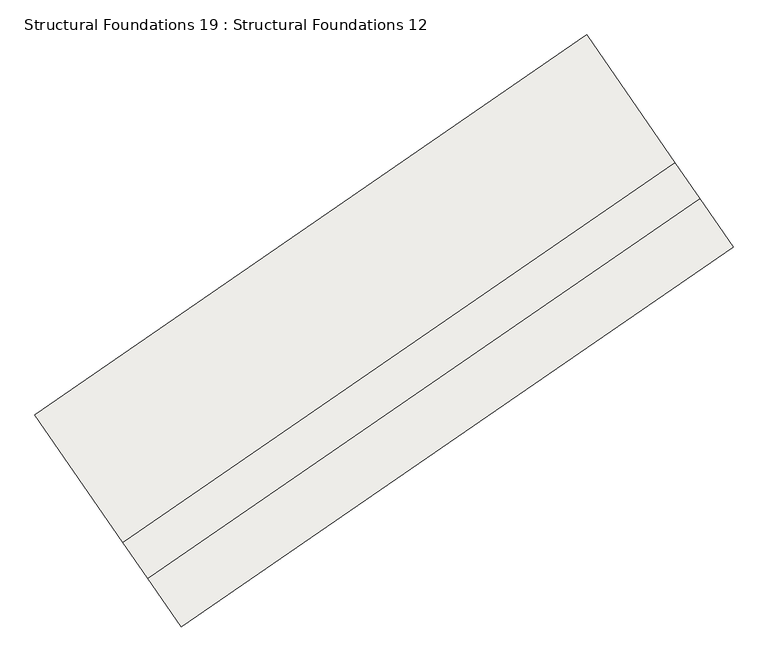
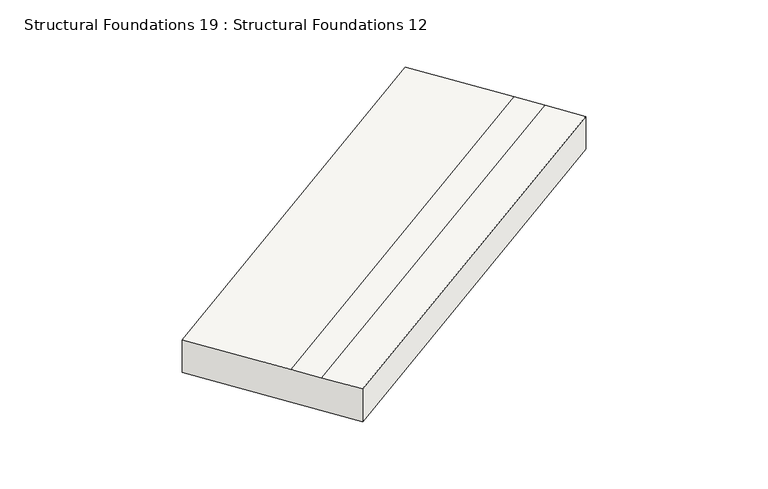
"""IFC4 building model written with IfcOpenShell, lengths in millimetres: slab geometry, Structural Foundations 19 : Structural Foundations 12."""

from ifc_helpers import new_model, si_unit, origin, place, context, project, spatial, faceted_brep, source, transform, mapped, element, save


def structural_foundations_19_structural_foundations_12_172ff9c8(model_context):
    return source(origin(), model_context, "Body", "Brep", [
        faceted_brep([(-290136.538822, -400965.6631738, 634407.0000005), (-290136.538822, -400965.6631738, 635107.0000005), (-288942.4387141, -402699.2000019, 635107.0000002), (-288604.9139812, -403189.2020971, 635107.0000001), (-288151.099213, -403848.0284455, 635107.0), (-288151.099213, -403848.0284455, 634407.0), (-297634.8061939, -406130.6425001, 634329.0000005), (-295649.3665849, -409013.0077717, 634329.0), (-295649.3665849, -409013.0077717, 635029.0), (-296103.1813531, -408354.1814233, 635029.0000001), (-296440.706086, -407864.1793281, 635029.0000002), (-297634.8061939, -406130.6425001, 635029.0000005)], [[[0, 1, 2, 3, 4, 5]], [[6, 7, 8, 9, 10, 11]], [[6, 11, 1, 0]], [[11, 10, 2, 1]], [[10, 9, 3, 2]], [[9, 8, 4, 3]], [[8, 7, 5, 4]], [[7, 6, 0, 5]]]),
    ])


if __name__ == "__main__":
    model = new_model("IFC4")
    model_context = context("Model", 3, world=origin())
    ifc_project = project(units=[si_unit("LENGTHUNIT", "METRE", prefix="MILLI")], contexts=[model_context])
    site = spatial("IfcSite", under=ifc_project)
    building = spatial("IfcBuilding", under=site)
    placement = place(None, origin())
    structural_foundations_19_structural_foundations_12_shape = structural_foundations_19_structural_foundations_12_172ff9c8(model_context)
    element("IfcSlab", 1, ObjectType="Structural Foundations 19 : Structural Foundations 12", at=placement, inside=building, context=model_context, shape_type="MappedRepresentation", body=[
        mapped(structural_foundations_19_structural_foundations_12_shape, transform((0.0, 0.0, 0.0), x_axis=(1.0, 0.0, 0.0), y_axis=(0.0, 1.0, 0.0), z_axis=(0.0, 0.0, 1.0))),
    ])
    save(model, "model.ifc")
